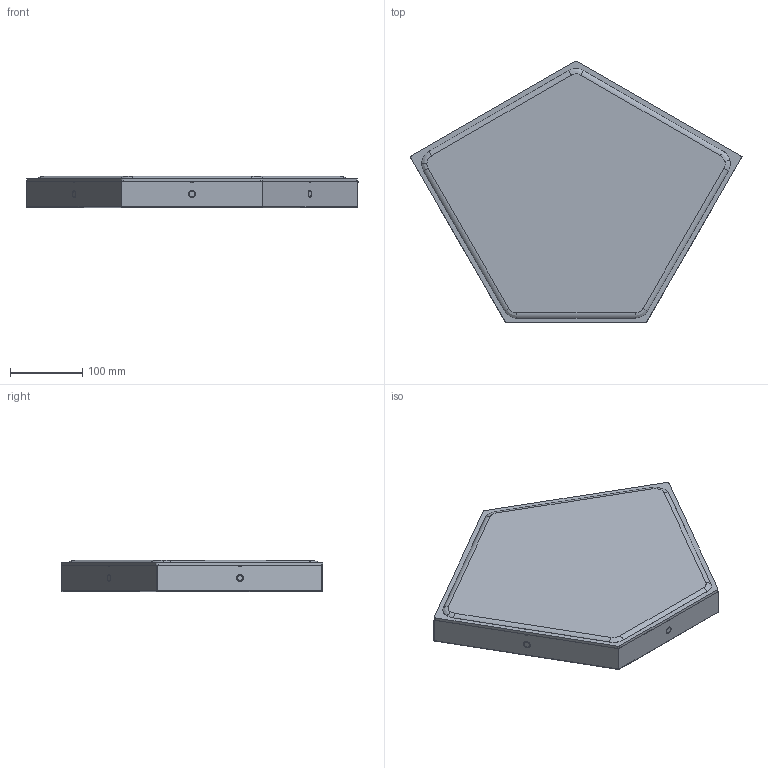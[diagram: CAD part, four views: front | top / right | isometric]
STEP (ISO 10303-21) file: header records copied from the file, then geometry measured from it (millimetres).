
FILE_DESCRIPTION(/* description */ (''),/* implementation_level */ '2;1');
FILE_NAME(/* name */ '1903-9~2',/* time_stamp */ '2021-03-16T12:36:26+01:00',/* author */ (''),/* organization */ (''),/* preprocessor_version */ 'ST-DEVELOPER v16.5',/* originating_system */ '',/* authorisation */ '');
FILE_SCHEMA (('CONFIG_CONTROL_DESIGN'));
Length unit declared in the file: millimetre
Products named in the file (1): Document
Bounding box: 458.01 x 360.85 x 43 mm (x, y, z)
Volume: 2726838.1 mm3; surface area: 523268.9 mm2
Topology: 2 solids, 2 shells, 224 faces, 588 edges, 365 vertices
Faces by surface type: cylinder 91, plane 90, bspline 43
Entity records: 8527 total; most frequent: CARTESIAN_POINT 4649, ORIENTED_EDGE 1166, EDGE_CURVE 583, B_SPLINE_CURVE_WITH_KNOTS 392, VERTEX_POINT 365, EDGE_LOOP 246, ADVANCED_FACE 224, FACE_OUTER_BOUND 224
